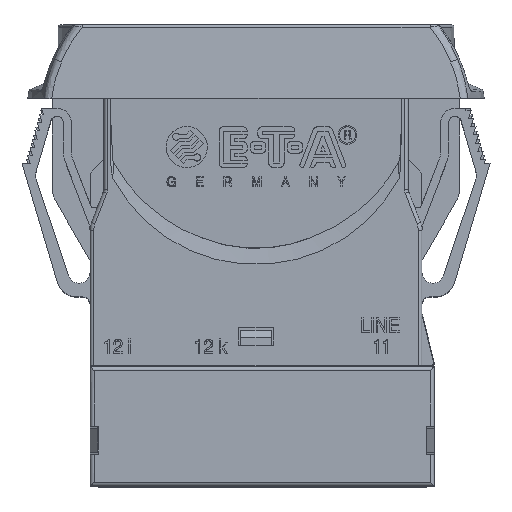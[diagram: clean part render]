
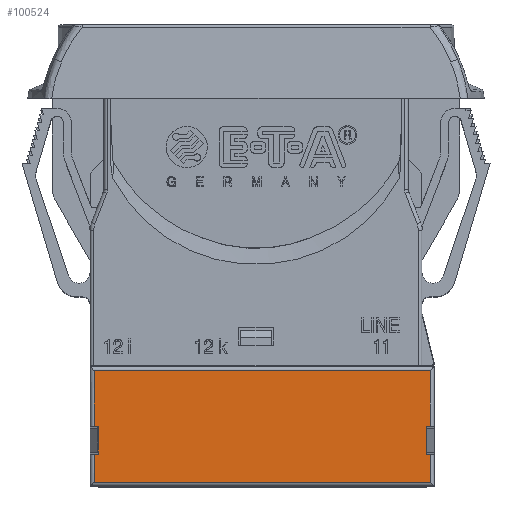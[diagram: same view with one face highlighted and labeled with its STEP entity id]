
A CAD part, top view. The second image highlights one B-rep face of the part: STEP entity #100524.
In plain terms, the highlighted planar face has unit normal (0, 0, 1).
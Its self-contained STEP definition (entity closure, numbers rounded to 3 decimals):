
#31900=CARTESIAN_POINT('',(21.5,-7.483,10.45));
#31930=CARTESIAN_POINT('',(-20.,-7.483,10.45));
#32016=CARTESIAN_POINT('',(21.5,-10.917,10.45));
#32038=CARTESIAN_POINT('',(-20.,-10.917,10.45));
#32052=DIRECTION('',(0.,-1.,0.));
#32053=VECTOR('',#32052,3.483);
#32054=CARTESIAN_POINT('',(-20.,-10.917,10.45));
#32055=LINE('',#32054,#32053);
#32056=DIRECTION('',(-1.,0.,0.));
#32057=VECTOR('',#32056,0.5);
#32058=CARTESIAN_POINT('',(-19.5,-10.917,10.45));
#32059=LINE('',#32058,#32057);
#32060=DIRECTION('',(0.,-1.,0.));
#32061=VECTOR('',#32060,3.435);
#32062=CARTESIAN_POINT('',(-19.5,-7.483,10.45));
#32063=LINE('',#32062,#32061);
#32064=DIRECTION('',(-1.,0.,0.));
#32065=VECTOR('',#32064,0.5);
#32066=CARTESIAN_POINT('',(-19.5,-7.483,10.45));
#32067=LINE('',#32066,#32065);
#32068=DIRECTION('',(0.,-1.,0.));
#32069=VECTOR('',#32068,6.883);
#32070=CARTESIAN_POINT('',(-20.,-0.6,10.45));
#32071=LINE('',#32070,#32069);
#32072=DIRECTION('',(-1.,0.,0.));
#32073=VECTOR('',#32072,41.5);
#32074=CARTESIAN_POINT('',(21.5,-0.6,10.45));
#32075=LINE('',#32074,#32073);
#32076=DIRECTION('',(0.,1.,0.));
#32077=VECTOR('',#32076,6.883);
#32078=CARTESIAN_POINT('',(21.5,-7.483,10.45));
#32079=LINE('',#32078,#32077);
#32080=DIRECTION('',(1.,0.,0.));
#32081=VECTOR('',#32080,0.5);
#32082=CARTESIAN_POINT('',(21.,-7.483,10.45));
#32083=LINE('',#32082,#32081);
#32084=DIRECTION('',(0.,-1.,0.));
#32085=VECTOR('',#32084,3.435);
#32086=CARTESIAN_POINT('',(21.,-7.483,10.45));
#32087=LINE('',#32086,#32085);
#32088=DIRECTION('',(1.,0.,0.));
#32089=VECTOR('',#32088,0.5);
#32090=CARTESIAN_POINT('',(21.,-10.917,10.45));
#32091=LINE('',#32090,#32089);
#32092=DIRECTION('',(0.,1.,0.));
#32093=VECTOR('',#32092,3.483);
#32094=CARTESIAN_POINT('',(21.5,-14.4,10.45));
#32095=LINE('',#32094,#32093);
#32096=DIRECTION('',(1.,0.,0.));
#32097=VECTOR('',#32096,41.5);
#32098=CARTESIAN_POINT('',(-20.,-14.4,10.45));
#32099=LINE('',#32098,#32097);
#32298=CARTESIAN_POINT('',(-20.,-0.6,10.45));
#50472=CARTESIAN_POINT('',(-19.5,-7.483,10.45));
#50473=CARTESIAN_POINT('',(-19.5,-10.917,10.45));
#50474=VERTEX_POINT('',#50472);
#50475=VERTEX_POINT('',#50473);
#50488=CARTESIAN_POINT('',(21.,-7.483,10.45));
#50489=CARTESIAN_POINT('',(21.,-10.917,10.45));
#50490=VERTEX_POINT('',#50488);
#50491=VERTEX_POINT('',#50489);
#50686=VERTEX_POINT('',#32298);
#50688=VERTEX_POINT('',#32038);
#50689=CARTESIAN_POINT('',(-20.,-14.4,10.45));
#50690=VERTEX_POINT('',#50689);
#50695=CARTESIAN_POINT('',(21.5,-14.4,10.45));
#50696=VERTEX_POINT('',#50695);
#50697=VERTEX_POINT('',#32016);
#50701=CARTESIAN_POINT('',(21.5,-0.6,10.45));
#50702=VERTEX_POINT('',#50701);
#50704=VERTEX_POINT('',#31900);
#50705=VERTEX_POINT('',#31930);
#100499=CARTESIAN_POINT('',(0.75,-7.5,10.45));
#100500=DIRECTION('',(0.,0.,1.));
#100501=DIRECTION('',(-1.,0.,0.));
#100502=AXIS2_PLACEMENT_3D('',#100499,#100500,#100501);
#100503=PLANE('',#100502);
#100505=ORIENTED_EDGE('',*,*,#100504,.F.);
#100506=ORIENTED_EDGE('',*,*,#100471,.F.);
#100508=ORIENTED_EDGE('',*,*,#100507,.F.);
#100509=ORIENTED_EDGE('',*,*,#100334,.T.);
#100511=ORIENTED_EDGE('',*,*,#100510,.F.);
#100513=ORIENTED_EDGE('',*,*,#100512,.F.);
#100515=ORIENTED_EDGE('',*,*,#100514,.F.);
#100516=ORIENTED_EDGE('',*,*,#100297,.F.);
#100517=ORIENTED_EDGE('',*,*,#100493,.T.);
#100518=ORIENTED_EDGE('',*,*,#100454,.T.);
#100519=ORIENTED_EDGE('',*,*,#100433,.F.);
#100521=ORIENTED_EDGE('',*,*,#100520,.F.);
#100522=EDGE_LOOP('',(#100505,#100506,#100508,#100509,#100511,#100513,#100515,
#100516,#100517,#100518,#100519,#100521));
#100523=FACE_OUTER_BOUND('',#100522,.F.);
#100297=EDGE_CURVE('',#50490,#50704,#32083,.T.);
#100334=EDGE_CURVE('',#50474,#50705,#32067,.T.);
#100433=EDGE_CURVE('',#50696,#50697,#32095,.T.);
#100454=EDGE_CURVE('',#50491,#50697,#32091,.T.);
#100471=EDGE_CURVE('',#50475,#50688,#32059,.T.);
#100493=EDGE_CURVE('',#50490,#50491,#32087,.T.);
#100504=EDGE_CURVE('',#50688,#50690,#32055,.T.);
#100507=EDGE_CURVE('',#50474,#50475,#32063,.T.);
#100510=EDGE_CURVE('',#50686,#50705,#32071,.T.);
#100512=EDGE_CURVE('',#50702,#50686,#32075,.T.);
#100514=EDGE_CURVE('',#50704,#50702,#32079,.T.);
#100520=EDGE_CURVE('',#50690,#50696,#32099,.T.);
#100524=ADVANCED_FACE('',(#100523),#100503,.T.);
